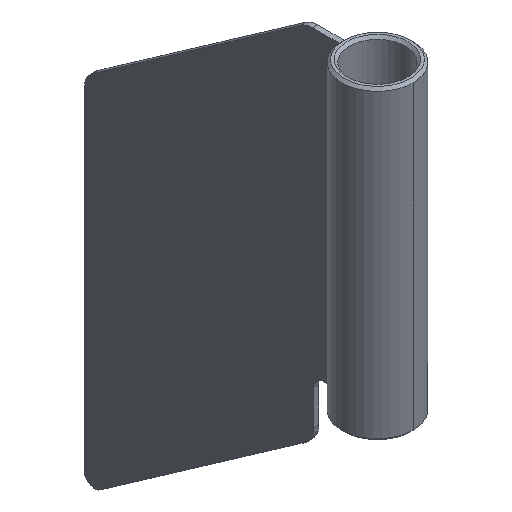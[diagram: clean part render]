
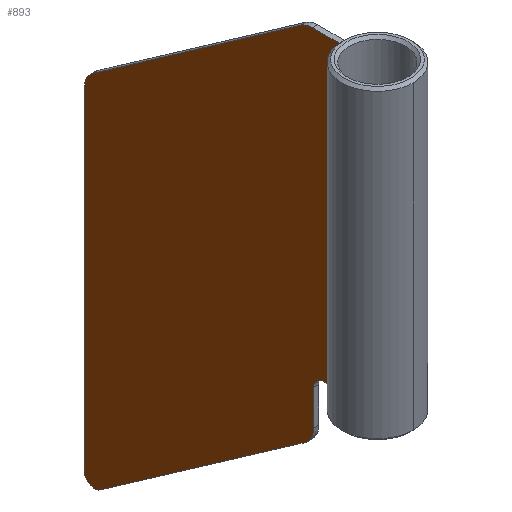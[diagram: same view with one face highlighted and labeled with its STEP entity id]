
A CAD part, isometric view. The second image highlights one B-rep face of the part: STEP entity #893.
In plain terms, the highlighted planar face has unit normal (-1, 0, 0).
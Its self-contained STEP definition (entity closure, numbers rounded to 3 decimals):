
#27=PLANE('',#979);
#74=FACE_OUTER_BOUND('',#122,.T.);
#122=EDGE_LOOP('',(#668,#669,#670,#671,#672,#673,#674,#675,#676,#677,#678,
#679,#680,#681,#682,#683,#684,#685,#686,#687));
#170=CIRCLE('',#965,2.);
#171=CIRCLE('',#968,4.);
#172=CIRCLE('',#971,2.);
#173=CIRCLE('',#974,4.);
#174=CIRCLE('',#977,4.);
#212=LINE('',#1351,#291);
#214=LINE('',#1355,#293);
#216=LINE('',#1359,#295);
#237=LINE('',#1409,#316);
#240=LINE('',#1417,#319);
#243=LINE('',#1425,#322);
#246=LINE('',#1433,#325);
#249=LINE('',#1441,#328);
#252=LINE('',#1448,#331);
#253=LINE('',#1451,#332);
#254=LINE('',#1453,#333);
#255=LINE('',#1455,#334);
#256=LINE('',#1456,#335);
#257=LINE('',#1458,#336);
#258=LINE('',#1459,#337);
#291=VECTOR('',#1068,10.);
#293=VECTOR('',#1070,10.);
#295=VECTOR('',#1072,10.);
#316=VECTOR('',#1109,10.);
#319=VECTOR('',#1118,10.);
#322=VECTOR('',#1127,10.);
#325=VECTOR('',#1136,10.);
#328=VECTOR('',#1145,10.);
#331=VECTOR('',#1154,10.);
#332=VECTOR('',#1157,10.);
#333=VECTOR('',#1158,10.);
#334=VECTOR('',#1159,10.);
#335=VECTOR('',#1160,10.);
#336=VECTOR('',#1161,10.);
#337=VECTOR('',#1162,10.);
#379=VERTEX_POINT('',#1348);
#380=VERTEX_POINT('',#1350);
#381=VERTEX_POINT('',#1352);
#382=VERTEX_POINT('',#1354);
#383=VERTEX_POINT('',#1356);
#384=VERTEX_POINT('',#1358);
#405=VERTEX_POINT('',#1408);
#406=VERTEX_POINT('',#1412);
#407=VERTEX_POINT('',#1416);
#408=VERTEX_POINT('',#1420);
#409=VERTEX_POINT('',#1424);
#410=VERTEX_POINT('',#1428);
#411=VERTEX_POINT('',#1432);
#412=VERTEX_POINT('',#1436);
#413=VERTEX_POINT('',#1440);
#414=VERTEX_POINT('',#1444);
#415=VERTEX_POINT('',#1450);
#416=VERTEX_POINT('',#1452);
#417=VERTEX_POINT('',#1454);
#418=VERTEX_POINT('',#1457);
#461=EDGE_CURVE('',#380,#379,#212,.T.);
#463=EDGE_CURVE('',#382,#381,#214,.T.);
#465=EDGE_CURVE('',#384,#383,#216,.T.);
#491=EDGE_CURVE('',#405,#384,#237,.T.);
#493=EDGE_CURVE('',#406,#405,#170,.T.);
#495=EDGE_CURVE('',#407,#406,#240,.T.);
#497=EDGE_CURVE('',#408,#407,#171,.T.);
#499=EDGE_CURVE('',#409,#408,#243,.T.);
#501=EDGE_CURVE('',#410,#409,#172,.T.);
#503=EDGE_CURVE('',#411,#410,#246,.T.);
#505=EDGE_CURVE('',#412,#411,#173,.T.);
#507=EDGE_CURVE('',#413,#412,#249,.T.);
#509=EDGE_CURVE('',#414,#413,#174,.T.);
#511=EDGE_CURVE('',#379,#414,#252,.T.);
#512=EDGE_CURVE('',#415,#382,#253,.T.);
#513=EDGE_CURVE('',#381,#416,#254,.T.);
#514=EDGE_CURVE('',#416,#417,#255,.T.);
#515=EDGE_CURVE('',#417,#380,#256,.T.);
#516=EDGE_CURVE('',#383,#418,#257,.T.);
#517=EDGE_CURVE('',#418,#415,#258,.T.);
#668=ORIENTED_EDGE('',*,*,#512,.T.);
#669=ORIENTED_EDGE('',*,*,#463,.T.);
#670=ORIENTED_EDGE('',*,*,#513,.T.);
#671=ORIENTED_EDGE('',*,*,#514,.T.);
#672=ORIENTED_EDGE('',*,*,#515,.T.);
#673=ORIENTED_EDGE('',*,*,#461,.T.);
#674=ORIENTED_EDGE('',*,*,#511,.T.);
#675=ORIENTED_EDGE('',*,*,#509,.T.);
#676=ORIENTED_EDGE('',*,*,#507,.T.);
#677=ORIENTED_EDGE('',*,*,#505,.T.);
#678=ORIENTED_EDGE('',*,*,#503,.T.);
#679=ORIENTED_EDGE('',*,*,#501,.T.);
#680=ORIENTED_EDGE('',*,*,#499,.T.);
#681=ORIENTED_EDGE('',*,*,#497,.T.);
#682=ORIENTED_EDGE('',*,*,#495,.T.);
#683=ORIENTED_EDGE('',*,*,#493,.T.);
#684=ORIENTED_EDGE('',*,*,#491,.T.);
#685=ORIENTED_EDGE('',*,*,#465,.T.);
#686=ORIENTED_EDGE('',*,*,#516,.T.);
#687=ORIENTED_EDGE('',*,*,#517,.T.);
#893=ADVANCED_FACE('',(#74),#27,.T.);
#965=AXIS2_PLACEMENT_3D('',#1413,#1113,#1114);
#968=AXIS2_PLACEMENT_3D('',#1421,#1122,#1123);
#971=AXIS2_PLACEMENT_3D('',#1429,#1131,#1132);
#974=AXIS2_PLACEMENT_3D('',#1437,#1140,#1141);
#977=AXIS2_PLACEMENT_3D('',#1445,#1149,#1150);
#979=AXIS2_PLACEMENT_3D('',#1449,#1155,#1156);
#1068=DIRECTION('',(0.,0.,1.));
#1070=DIRECTION('',(0.,0.,1.));
#1072=DIRECTION('',(0.,0.,1.));
#1109=DIRECTION('',(0.,-1.,0.));
#1113=DIRECTION('center_axis',(1.,0.,0.));
#1114=DIRECTION('ref_axis',(0.,0.,-1.));
#1118=DIRECTION('',(0.,0.,1.));
#1122=DIRECTION('center_axis',(-1.,0.,0.));
#1123=DIRECTION('ref_axis',(0.,-0.574,-0.819));
#1127=DIRECTION('',(0.,-0.819,0.574));
#1131=DIRECTION('center_axis',(-1.,0.,0.));
#1132=DIRECTION('ref_axis',(0.,1.,0.));
#1136=DIRECTION('',(0.,0.,-1.));
#1140=DIRECTION('center_axis',(-1.,0.,0.));
#1141=DIRECTION('ref_axis',(0.,0.574,0.819));
#1145=DIRECTION('',(0.,0.819,-0.574));
#1149=DIRECTION('center_axis',(-1.,0.,0.));
#1150=DIRECTION('ref_axis',(0.,0.,1.));
#1154=DIRECTION('',(0.,1.,0.));
#1155=DIRECTION('center_axis',(-1.,0.,0.));
#1156=DIRECTION('ref_axis',(0.,0.,1.));
#1157=DIRECTION('',(0.,-1.,0.));
#1158=DIRECTION('',(0.,1.,0.));
#1159=DIRECTION('',(0.,0.,1.));
#1160=DIRECTION('',(0.,-1.,0.));
#1161=DIRECTION('',(0.,1.,0.));
#1162=DIRECTION('',(0.,0.,1.));
#1348=CARTESIAN_POINT('',(-0.5,7.,14.5));
#1350=CARTESIAN_POINT('',(-0.5,7.,4.5));
#1351=CARTESIAN_POINT('',(-0.5,7.,-44.5));
#1352=CARTESIAN_POINT('',(-0.5,7.,-10.5));
#1354=CARTESIAN_POINT('',(-0.5,7.,-20.5));
#1355=CARTESIAN_POINT('',(-0.5,7.,-44.5));
#1356=CARTESIAN_POINT('',(-0.5,7.,-35.5));
#1358=CARTESIAN_POINT('',(-0.5,7.,-44.5));
#1359=CARTESIAN_POINT('',(-0.5,7.,-44.5));
#1408=CARTESIAN_POINT('',(-0.5,10.,-44.5));
#1409=CARTESIAN_POINT('',(-0.5,10.,-44.5));
#1412=CARTESIAN_POINT('',(-0.5,12.,-46.5));
#1413=CARTESIAN_POINT('Origin',(-0.5,10.,-46.5));
#1416=CARTESIAN_POINT('',(-0.5,12.,-53.418));
#1417=CARTESIAN_POINT('',(-0.5,12.,-53.418));
#1420=CARTESIAN_POINT('',(-0.5,13.706,-56.694));
#1421=CARTESIAN_POINT('Origin',(-0.5,16.,-53.418));
#1424=CARTESIAN_POINT('',(-0.5,53.853,-84.806));
#1425=CARTESIAN_POINT('',(-0.5,53.853,-84.806));
#1428=CARTESIAN_POINT('',(-0.5,57.,-83.167));
#1429=CARTESIAN_POINT('Origin',(-0.5,55.,-83.167));
#1432=CARTESIAN_POINT('',(-0.5,57.,-18.041));
#1433=CARTESIAN_POINT('',(-0.5,57.,-18.041));
#1436=CARTESIAN_POINT('',(-0.5,55.294,-14.765));
#1437=CARTESIAN_POINT('Origin',(-0.5,53.,-18.041));
#1440=CARTESIAN_POINT('',(-0.5,14.533,13.777));
#1441=CARTESIAN_POINT('',(-0.5,13.5,14.5));
#1444=CARTESIAN_POINT('',(-0.5,12.239,14.5));
#1445=CARTESIAN_POINT('Origin',(-0.5,12.239,10.5));
#1448=CARTESIAN_POINT('',(-0.5,7.,14.5));
#1449=CARTESIAN_POINT('Origin',(-0.5,32.273,-34.381));
#1450=CARTESIAN_POINT('',(-0.5,7.689,-20.5));
#1451=CARTESIAN_POINT('',(-0.5,19.627,-20.5));
#1452=CARTESIAN_POINT('',(-0.5,7.689,-10.5));
#1453=CARTESIAN_POINT('',(-0.5,19.627,-10.5));
#1454=CARTESIAN_POINT('',(-0.5,7.689,4.5));
#1455=CARTESIAN_POINT('',(-0.5,7.689,-10.5));
#1456=CARTESIAN_POINT('',(-0.5,19.627,4.5));
#1457=CARTESIAN_POINT('',(-0.5,7.689,-35.5));
#1458=CARTESIAN_POINT('',(-0.5,19.627,-35.5));
#1459=CARTESIAN_POINT('',(-0.5,7.689,-35.5));
